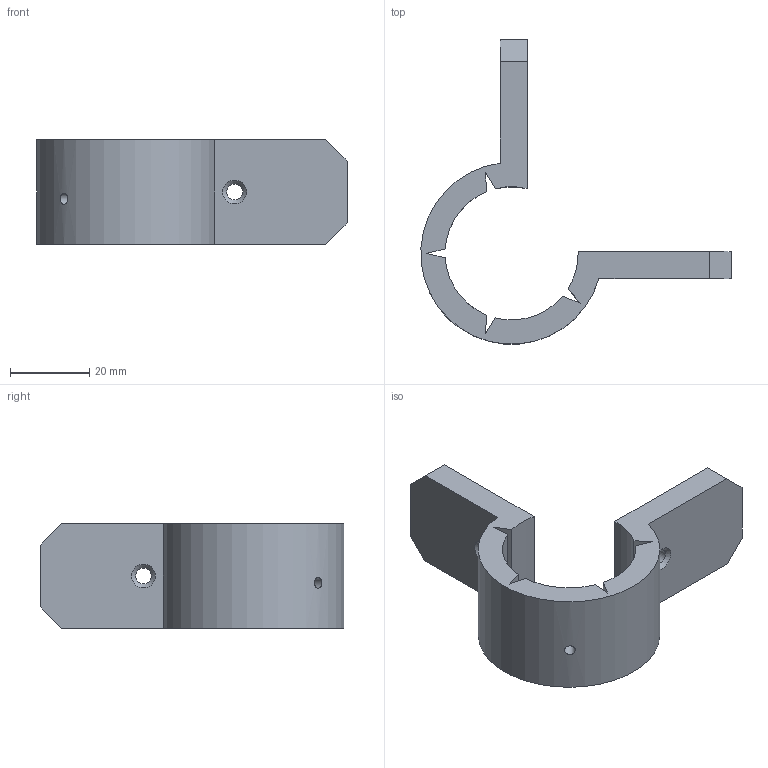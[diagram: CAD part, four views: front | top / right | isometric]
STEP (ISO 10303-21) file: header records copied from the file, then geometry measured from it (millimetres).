
FILE_DESCRIPTION(/* description */ (''),/* implementation_level */ '2;1');
FILE_NAME(/* name */ 'C:/Users/kingk/Desktop/PLEXUS Master Models/one/Plexus Snap Corner v9.step',/* time_stamp */ '2018-09-06T17:13:35-04:00',/* author */ ('commando45a'),/* organization */ (''),/* preprocessor_version */ 'ST-DEVELOPER v17.2',/* originating_system */ 'Autodesk Translation Framework v7.6.0.251',/* authorisation */ '');
FILE_SCHEMA (('AUTOMOTIVE_DESIGN { 1 0 10303 214 3 1 1 }'));
Length unit declared in the file: millimetre
Products named in the file (1): Plexus Snap Corner
Bounding box: 78.34 x 76.78 x 26.45 mm (x, y, z)
Volume: 26211.9 mm3; surface area: 11639.1 mm2
Topology: 1 solids, 1 shells, 33 faces, 93 edges, 62 vertices
Faces by surface type: plane 20, cylinder 9, cone 4
Full cylindrical faces by diameter (mm): 2.7 x1, 4 x2
Entity records: 1174 total; most frequent: CARTESIAN_POINT 257, ORIENTED_EDGE 186, DIRECTION 179, EDGE_CURVE 93, LINE 67, VECTOR 67, VERTEX_POINT 62, AXIS2_PLACEMENT_3D 56
